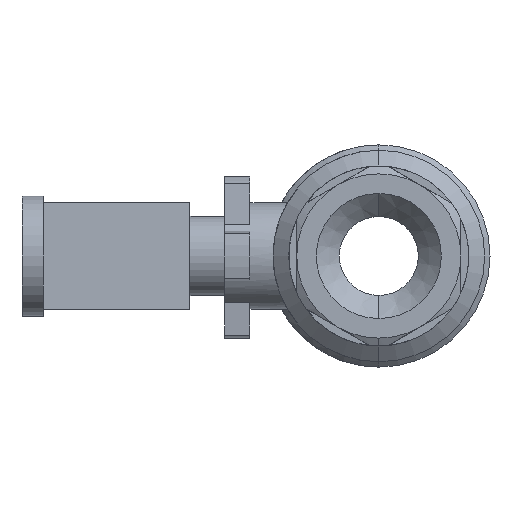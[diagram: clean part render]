
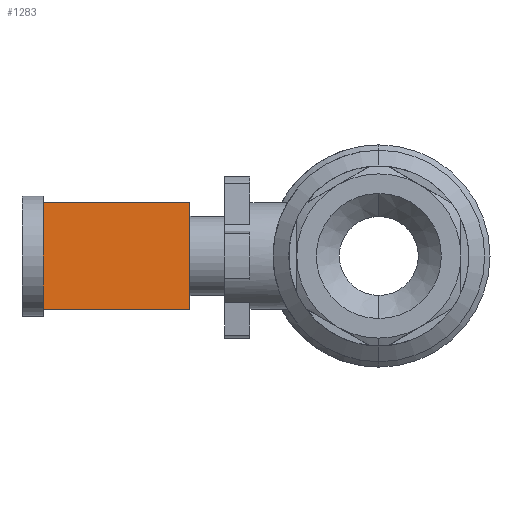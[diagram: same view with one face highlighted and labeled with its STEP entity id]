
A CAD part, left-side view. The second image highlights one B-rep face of the part: STEP entity #1283.
In plain terms, the highlighted planar face has unit normal (-0.707, -0.707, 0).
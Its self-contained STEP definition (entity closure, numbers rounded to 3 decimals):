
#232 = CARTESIAN_POINT ( 'NONE',  ( -9.4, 29.9, 8.5 ) ) ;
#252 = EDGE_CURVE ( 'NONE', #3046, #2185, #3547, .T. ) ;
#288 = FACE_OUTER_BOUND ( 'NONE', #2131, .T. ) ;
#301 = DIRECTION ( 'NONE',  ( 0., 0., -1. ) ) ;
#539 = EDGE_CURVE ( 'NONE', #3403, #2031, #2481, .T. ) ;
#730 = CARTESIAN_POINT ( 'NONE',  ( -33.1, 53.6, 8.5 ) ) ;
#806 = VECTOR ( 'NONE', #2671, 1000. ) ;
#903 = LINE ( 'NONE', #3531, #1648 ) ;
#1018 = ORIENTED_EDGE ( 'NONE', *, *, #252, .F. ) ;
#1283 = ADVANCED_FACE ( 'NONE', ( #288 ), #2310, .F. ) ;
#1325 = DIRECTION ( 'NONE',  ( -0.707, 0.707, 0. ) ) ;
#1419 = CARTESIAN_POINT ( 'NONE',  ( -33.1, 53.6, 8.5 ) ) ;
#1506 = ORIENTED_EDGE ( 'NONE', *, *, #539, .T. ) ;
#1591 = LINE ( 'NONE', #4099, #2235 ) ;
#1648 = VECTOR ( 'NONE', #3471, 1000. ) ;
#1728 = CARTESIAN_POINT ( 'NONE',  ( -33.1, 53.6, 8.5 ) ) ;
#1795 = DIRECTION ( 'NONE',  ( 0.707, 0.707, 0. ) ) ;
#1855 = EDGE_CURVE ( 'NONE', #3046, #3403, #903, .T. ) ;
#2031 = VERTEX_POINT ( 'NONE', #4090 ) ;
#2047 = DIRECTION ( 'NONE',  ( 0.707, -0.707, 0. ) ) ;
#2131 = EDGE_LOOP ( 'NONE', ( #1506, #3828, #1018, #2432 ) ) ;
#2185 = VERTEX_POINT ( 'NONE', #232 ) ;
#2235 = VECTOR ( 'NONE', #301, 1000. ) ;
#2310 = PLANE ( 'NONE',  #3281 ) ;
#2349 = CARTESIAN_POINT ( 'NONE',  ( -33.1, 53.6, -8.5 ) ) ;
#2432 = ORIENTED_EDGE ( 'NONE', *, *, #1855, .T. ) ;
#2481 = LINE ( 'NONE', #2349, #806 ) ;
#2578 = EDGE_CURVE ( 'NONE', #2185, #2031, #1591, .T. ) ;
#2671 = DIRECTION ( 'NONE',  ( 0.707, -0.707, 0. ) ) ;
#3046 = VERTEX_POINT ( 'NONE', #730 ) ;
#3281 = AXIS2_PLACEMENT_3D ( 'NONE', #1728, #1795, #1325 ) ;
#3403 = VERTEX_POINT ( 'NONE', #3807 ) ;
#3471 = DIRECTION ( 'NONE',  ( 0., 0., -1. ) ) ;
#3504 = VECTOR ( 'NONE', #2047, 1000. ) ;
#3531 = CARTESIAN_POINT ( 'NONE',  ( -33.1, 53.6, 8.5 ) ) ;
#3547 = LINE ( 'NONE', #1419, #3504 ) ;
#3807 = CARTESIAN_POINT ( 'NONE',  ( -33.1, 53.6, -8.5 ) ) ;
#3828 = ORIENTED_EDGE ( 'NONE', *, *, #2578, .F. ) ;
#4090 = CARTESIAN_POINT ( 'NONE',  ( -9.4, 29.9, -8.5 ) ) ;
#4099 = CARTESIAN_POINT ( 'NONE',  ( -9.4, 29.9, 8.5 ) ) ;
